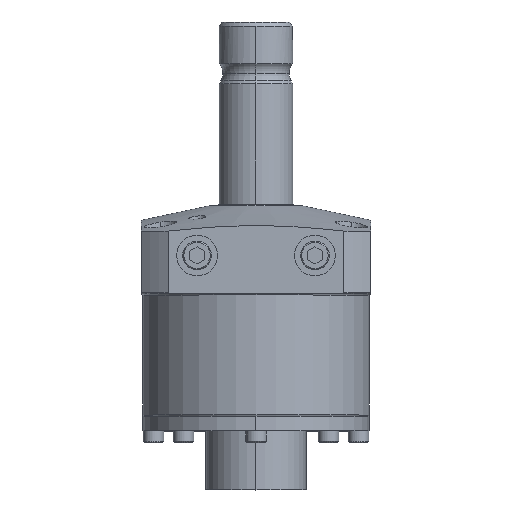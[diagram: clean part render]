
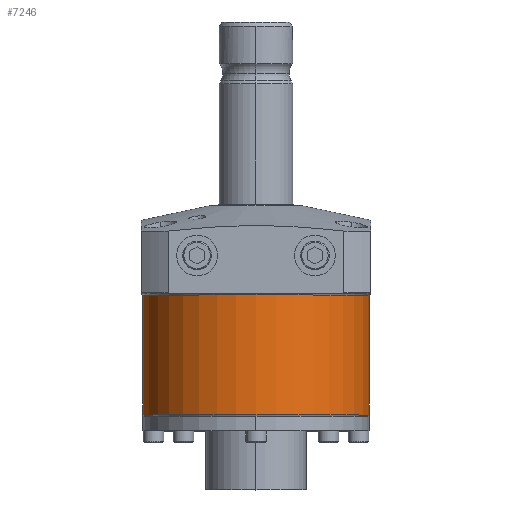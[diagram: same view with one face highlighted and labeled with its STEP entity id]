
A CAD part, top view. The second image highlights one B-rep face of the part: STEP entity #7246.
In plain terms, the highlighted cylindrical face has radius 38.5 mm (diameter 77 mm), a partial arc.
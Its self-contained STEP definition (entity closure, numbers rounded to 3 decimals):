
#4098 = DIRECTION ( 'NONE',  ( 0., 1., 0. ) ) ;
#4099 = VECTOR ( 'NONE', #4098, 1000. ) ;
#4100 = CARTESIAN_POINT ( 'NONE',  ( -38.5, -1.2, 0. ) ) ;
#4101 = LINE ( 'NONE', #4100, #4099 ) ;
#4102 = DIRECTION ( 'NONE',  ( -1., 0., 0. ) ) ;
#4103 = DIRECTION ( 'NONE',  ( 0., 1., 0. ) ) ;
#4104 = CARTESIAN_POINT ( 'NONE',  ( 0., -30.4, 0. ) ) ;
#4105 = AXIS2_PLACEMENT_3D ( 'NONE', #4104, #4103, #4102 ) ;
#4106 = CIRCLE ( 'NONE', #4105, 38.5 ) ;
#4107 = DIRECTION ( 'NONE',  ( 0., 1., 0. ) ) ;
#4108 = VECTOR ( 'NONE', #4107, 1000. ) ;
#4109 = CARTESIAN_POINT ( 'NONE',  ( 38.5, -1.2, 0. ) ) ;
#4110 = LINE ( 'NONE', #4109, #4108 ) ;
#4111 = CARTESIAN_POINT ( 'NONE',  ( 38.5, -71.1, 0. ) ) ;
#4112 = CARTESIAN_POINT ( 'NONE',  ( -38.5, -71.1, 0. ) ) ;
#4113 = DIRECTION ( 'NONE',  ( -1., 0., 0. ) ) ;
#4114 = DIRECTION ( 'NONE',  ( 0., 1., 0. ) ) ;
#4115 = CARTESIAN_POINT ( 'NONE',  ( 0., -71.1, 0. ) ) ;
#4116 = AXIS2_PLACEMENT_3D ( 'NONE', #4115, #4114, #4113 ) ;
#4117 = CIRCLE ( 'NONE', #4116, 38.5 ) ;
#4303 = DIRECTION ( 'NONE',  ( -1., 0., 0. ) ) ;
#4304 = DIRECTION ( 'NONE',  ( 0., 1., 0. ) ) ;
#4305 = AXIS2_PLACEMENT_3D ( 'NONE', #4306, #4304, #4303 ) ;
#4306 = CARTESIAN_POINT ( 'NONE',  ( 0., -1.2, 0. ) ) ;
#4307 = CYLINDRICAL_SURFACE ( 'NONE', #4305, 38.5 ) ;
#4308 = FACE_OUTER_BOUND ( 'NONE', #7161, .T. ) ;
#4314 = CARTESIAN_POINT ( 'NONE',  ( -38.5, -30.4, 0. ) ) ;
#4320 = CARTESIAN_POINT ( 'NONE',  ( 38.5, -30.4, 0. ) ) ;
#7161 = EDGE_LOOP ( 'NONE', ( #7162, #7166, #7168, #7170 ) ) ;
#7162 = ORIENTED_EDGE ( 'NONE', *, *, #7163, .T. ) ;
#7163 = EDGE_CURVE ( 'NONE', #7164, #7165, #4117, .T. ) ;
#7164 = VERTEX_POINT ( 'NONE', #4112 ) ;
#7165 = VERTEX_POINT ( 'NONE', #4111 ) ;
#7166 = ORIENTED_EDGE ( 'NONE', *, *, #7167, .T. ) ;
#7167 = EDGE_CURVE ( 'NONE', #7165, #7240, #4110, .T. ) ;
#7168 = ORIENTED_EDGE ( 'NONE', *, *, #7169, .F. ) ;
#7169 = EDGE_CURVE ( 'NONE', #7243, #7240, #4106, .T. ) ;
#7170 = ORIENTED_EDGE ( 'NONE', *, *, #7171, .F. ) ;
#7171 = EDGE_CURVE ( 'NONE', #7164, #7243, #4101, .T. ) ;
#7240 = VERTEX_POINT ( 'NONE', #4320 ) ;
#7243 = VERTEX_POINT ( 'NONE', #4314 ) ;
#7246 = ADVANCED_FACE ( 'NONE', ( #4308 ), #4307, .T. ) ;
